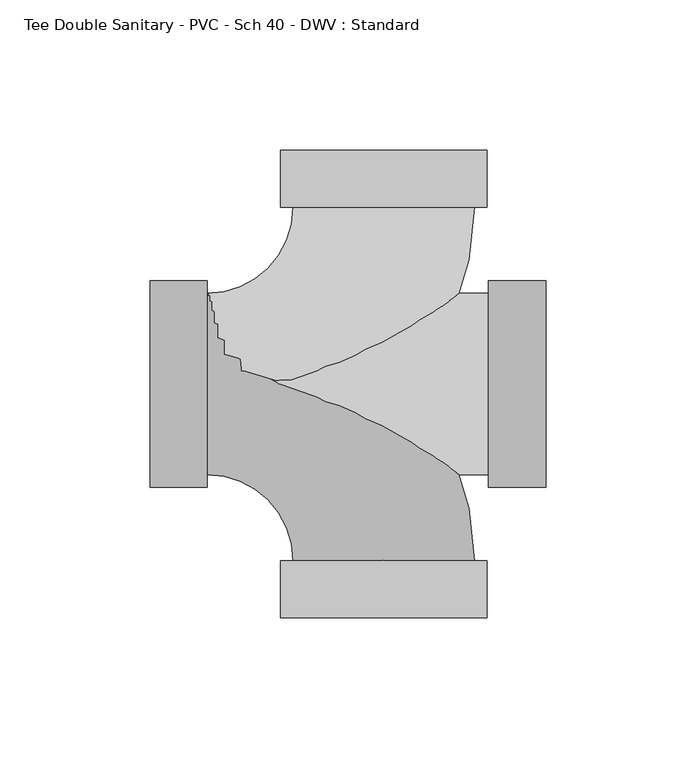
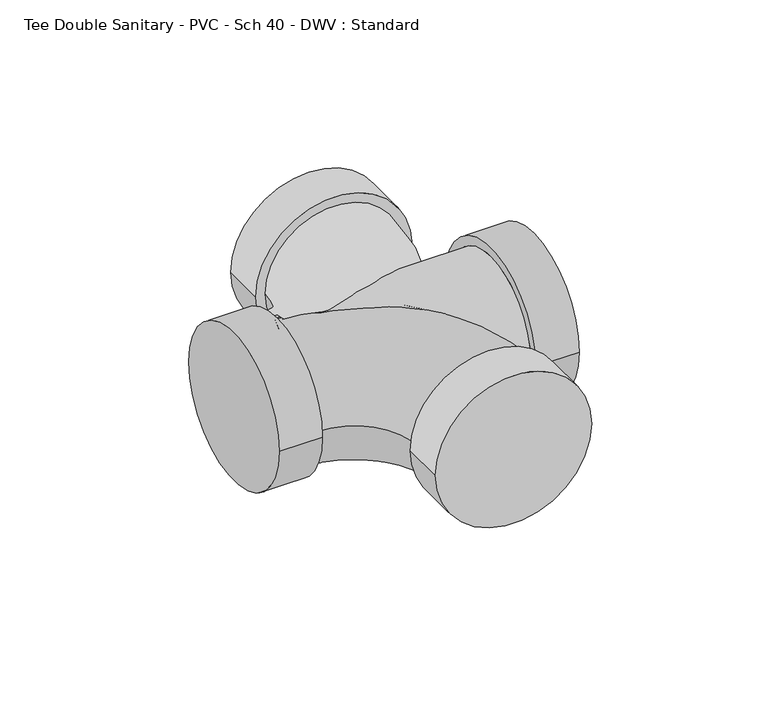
"""IFC4 building model written with IfcOpenShell, lengths in millimetres: pipe fitting geometry, Tee Double Sanitary - PVC - Sch 40 - DWV : Standard."""

from ifc_helpers import new_model, si_unit, point, frame, origin, place, context, project, spatial, circle_curve, ellipse_curve, trimmed, source, transform, mapped, element, save
from ifc_brep_helpers import plane_surface, cylinder_surface, revolved_surface, advanced_brep


def tee_double_sanitary_pvc_sch_40_dwv_standard_2fd41c53(model_context):
    return source(origin(), model_context, "Body", "AdvancedBrep", [
        advanced_brep(
        [(-58.7502, -30.1625, 0.0), (-58.7502, 30.1625, 0.0), (-30.1625, -58.7502, 0.0), (30.1625, -58.7502, 0.0), (34.3154, -77.8002, 0.0), (-34.3154, -77.8002, 0.0), (34.3154, -58.7502, 0.0), (-34.3154, -58.7502, 0.0)],
        [
            (0, 1, circle_curve(frame((-58.7502, 0.0, 0.0), z_axis=(-1.0, 0.0, 0.0), x_axis=(0.0, 1.0, 0.0)), 30.1625)),
            (1, 0, circle_curve(frame((-58.7502, 0.0, 0.0), z_axis=(-1.0, 0.0, 0.0), x_axis=(0.0, 1.0, 0.0)), 30.1625)),
            (0, 2, circle_curve(frame((-58.7502, -58.7502, 0.0), z_axis=(0.0, 0.0, -1.0), x_axis=(0.0, 1.0, 0.0)), 28.5877)),
            (2, 3, circle_curve(frame((0.0, -58.7502, 0.0), z_axis=(0.0, 1.0, 0.0), x_axis=(1.0, 0.0, 0.0)), 30.1625)),
            (3, 1, circle_curve(frame((-58.7502, -58.7502, 0.0), z_axis=(0.0, 0.0, 1.0), x_axis=(0.0, 1.0, 0.0)), 88.9127)),
            (3, 2, circle_curve(frame((0.0, -58.7502, 0.0), z_axis=(0.0, 1.0, 0.0), x_axis=(1.0, 0.0, 0.0)), 30.1625)),
            (4, 5, circle_curve(frame((0.0, -77.8002, 0.0), z_axis=(0.0, -1.0, 0.0), x_axis=(-1.0, 0.0, 0.0)), 34.3154)),
            (5, 4, circle_curve(frame((0.0, -77.8002, 0.0), z_axis=(0.0, -1.0, 0.0), x_axis=(-1.0, 0.0, 0.0)), 34.3154)),
            (6, 7, circle_curve(frame((0.0, -58.7502, 0.0), z_axis=(0.0, 1.0, 0.0), x_axis=(-1.0, 0.0, 0.0)), 34.3154)),
            (7, 6, circle_curve(frame((0.0, -58.7502, 0.0), z_axis=(0.0, 1.0, 0.0), x_axis=(-1.0, 0.0, 0.0)), 34.3154)),
            (4, 6),
            (7, 5),
        ],
        [
            plane_surface(frame((-58.7502, 0.0, 0.0), z_axis=(-1.0, 0.0, 0.0), x_axis=(0.0, 0.0, 1.0))),
            revolved_surface(trimmed(ellipse_curve(frame((-58.7502, 0.0, 0.0), z_axis=(-1.0, 0.0, 0.0), x_axis=(0.0, 1.0, 0.0)), 30.1625, 30.1625), [point((-58.7502, -30.1625, 0.0))], [point((-58.7502, 30.1625, 0.0))], True, "CARTESIAN"), (-58.7502, -58.7502, 0.0), (0.0, 0.0, -1.0)),
            revolved_surface(trimmed(ellipse_curve(frame((-58.7502, 0.0, 0.0), z_axis=(-1.0, 0.0, 0.0), x_axis=(0.0, 1.0, 0.0)), 30.1625, 30.1625), [point((-58.7502, 30.1625, 0.0))], [point((-58.7502, -30.1625, 0.0))], True, "CARTESIAN"), (-58.7502, -58.7502, 0.0), (0.0, 0.0, -1.0)),
            plane_surface(frame((0.0, -77.8002, 0.0), z_axis=(0.0, -1.0, 0.0), x_axis=(0.0, 0.0, 1.0))),
            plane_surface(frame((0.0, -58.7502, 0.0), z_axis=(0.0, 1.0, 0.0), x_axis=(0.0, 0.0, 1.0))),
            cylinder_surface(frame((0.0, -77.8002, 0.0), z_axis=(0.0, -1.0, 0.0), x_axis=(-1.0, 0.0, 0.0)), 34.3154),
        ],
        [
            (0, [[1, 2]]),
            (1, [[-1, 3, 4, 5]]),
            (2, [[-2, -5, 6, -3]]),
            (3, [[7, 8]]),
            (4, [[9, 10], [-4, -6]]),
            (5, [[-7, 11, -10, 12]]),
            (5, [[-8, -12, -9, -11]]),
        ],
    ),
        advanced_brep(
        [(-58.7502, -30.1625, 0.0), (-58.7502, 30.1625, 0.0), (30.1625, 58.7502, 0.0), (-30.1625, 58.7502, 0.0), (34.3154, 58.7502, 0.0), (-34.3154, 58.7502, 0.0), (34.3154, 77.8002, 0.0), (-34.3154, 77.8002, 0.0)],
        [
            (0, 1, circle_curve(frame((-58.7502, 0.0, 0.0), z_axis=(-1.0, 0.0, 0.0), x_axis=(0.0, 1.0, 0.0)), 30.1625)),
            (1, 0, circle_curve(frame((-58.7502, 0.0, 0.0), z_axis=(-1.0, 0.0, 0.0), x_axis=(0.0, 1.0, 0.0)), 30.1625)),
            (0, 2, circle_curve(frame((-58.7502, 58.7502, 0.0), z_axis=(0.0, 0.0, 1.0), x_axis=(0.0, -1.0, 0.0)), 88.9127)),
            (2, 3, circle_curve(frame((0.0, 58.7502, 0.0), z_axis=(0.0, -1.0, 0.0), x_axis=(-1.0, 0.0, 0.0)), 30.1625)),
            (3, 1, circle_curve(frame((-58.7502, 58.7502, 0.0), z_axis=(0.0, 0.0, -1.0), x_axis=(0.0, -1.0, 0.0)), 28.5877)),
            (3, 2, circle_curve(frame((0.0, 58.7502, 0.0), z_axis=(0.0, -1.0, 0.0), x_axis=(-1.0, 0.0, 0.0)), 30.1625)),
            (4, 5, circle_curve(frame((0.0, 58.7502, 0.0), z_axis=(0.0, -1.0, 0.0), x_axis=(-1.0, 0.0, 0.0)), 34.3154)),
            (5, 4, circle_curve(frame((0.0, 58.7502, 0.0), z_axis=(0.0, -1.0, 0.0), x_axis=(-1.0, 0.0, 0.0)), 34.3154)),
            (6, 7, circle_curve(frame((0.0, 77.8002, 0.0), z_axis=(0.0, 1.0, 0.0), x_axis=(-1.0, 0.0, 0.0)), 34.3154)),
            (7, 6, circle_curve(frame((0.0, 77.8002, 0.0), z_axis=(0.0, 1.0, 0.0), x_axis=(-1.0, 0.0, 0.0)), 34.3154)),
            (4, 6),
            (7, 5),
        ],
        [
            plane_surface(frame((-58.7502, 0.0, 0.0), z_axis=(-1.0, 0.0, 0.0), x_axis=(0.0, 0.0, 1.0))),
            revolved_surface(trimmed(ellipse_curve(frame((-58.7502, 0.0, 0.0), z_axis=(-1.0, 0.0, 0.0), x_axis=(0.0, 1.0, 0.0)), 30.1625, 30.1625), [point((-58.7502, -30.1625, 0.0))], [point((-58.7502, 30.1625, 0.0))], True, "CARTESIAN"), (-58.7502, 58.7502, 0.0), (0.0, 0.0, 1.0)),
            revolved_surface(trimmed(ellipse_curve(frame((-58.7502, 0.0, 0.0), z_axis=(-1.0, 0.0, 0.0), x_axis=(0.0, 1.0, 0.0)), 30.1625, 30.1625), [point((-58.7502, 30.1625, 0.0))], [point((-58.7502, -30.1625, 0.0))], True, "CARTESIAN"), (-58.7502, 58.7502, 0.0), (0.0, 0.0, 1.0)),
            plane_surface(frame((0.0, 58.7502, 0.0), z_axis=(0.0, -1.0, 0.0), x_axis=(0.0, 0.0, 1.0))),
            plane_surface(frame((0.0, 77.8002, 0.0), z_axis=(0.0, 1.0, 0.0), x_axis=(0.0, 0.0, 1.0))),
            cylinder_surface(frame((0.0, 58.7502, 0.0), z_axis=(0.0, -1.0, 0.0), x_axis=(-1.0, 0.0, 0.0)), 34.3154),
        ],
        [
            (0, [[1, 2]]),
            (1, [[-1, 3, 4, 5]]),
            (2, [[-2, -5, 6, -3]]),
            (3, [[7, 8], [-4, -6]]),
            (4, [[9, 10]]),
            (5, [[-7, 11, -10, 12]]),
            (5, [[-8, -12, -9, -11]]),
        ],
    ),
        advanced_brep(
        [(-77.8002, -34.3154, 0.0), (-77.8002, 34.3154, 0.0), (-58.7502, -34.3154, 0.0), (-58.7502, 34.3154, 0.0), (-58.7502, 30.1625, 0.0), (-58.7502, -30.1625, 0.0), (34.925, 30.1625, 0.0), (34.925, -30.1625, 0.0), (34.925, -34.3154, 0.0), (34.925, 34.3154, 0.0), (53.975, -34.3154, 0.0), (53.975, 34.3154, 0.0)],
        [
            (0, 1, circle_curve(frame((-77.8002, 0.0, 0.0), z_axis=(-1.0, 0.0, 0.0), x_axis=(0.0, 1.0, 0.0)), 34.3154)),
            (1, 0, circle_curve(frame((-77.8002, 0.0, 0.0), z_axis=(-1.0, 0.0, 0.0), x_axis=(0.0, 1.0, 0.0)), 34.3154)),
            (2, 3, circle_curve(frame((-58.7502, 0.0, 0.0), z_axis=(1.0, 0.0, 0.0), x_axis=(0.0, 1.0, 0.0)), 34.3154)),
            (3, 2, circle_curve(frame((-58.7502, 0.0, 0.0), z_axis=(1.0, 0.0, 0.0), x_axis=(0.0, 1.0, 0.0)), 34.3154)),
            (4, 5, circle_curve(frame((-58.7502, 0.0, 0.0), z_axis=(-1.0, 0.0, 0.0), x_axis=(0.0, 0.0, -1.0)), 30.1625)),
            (5, 4, circle_curve(frame((-58.7502, 0.0, 0.0), z_axis=(-1.0, 0.0, 0.0), x_axis=(0.0, 0.0, 1.0)), 30.1625)),
            (0, 2),
            (3, 1),
            (4, 6),
            (6, 7, circle_curve(frame((34.925, 0.0, 0.0), z_axis=(-1.0, 0.0, 0.0), x_axis=(0.0, 0.0, -1.0)), 30.1625)),
            (7, 5),
            (7, 6, circle_curve(frame((34.925, 0.0, 0.0), z_axis=(-1.0, 0.0, 0.0), x_axis=(0.0, 0.0, 1.0)), 30.1625)),
            (8, 9, circle_curve(frame((34.925, 0.0, 0.0), z_axis=(-1.0, 0.0, 0.0), x_axis=(0.0, 1.0, 0.0)), 34.3154)),
            (9, 8, circle_curve(frame((34.925, 0.0, 0.0), z_axis=(-1.0, 0.0, 0.0), x_axis=(0.0, 1.0, 0.0)), 34.3154)),
            (10, 11, circle_curve(frame((53.975, 0.0, 0.0), z_axis=(1.0, 0.0, 0.0), x_axis=(0.0, 1.0, 0.0)), 34.3154)),
            (11, 10, circle_curve(frame((53.975, 0.0, 0.0), z_axis=(1.0, 0.0, 0.0), x_axis=(0.0, 1.0, 0.0)), 34.3154)),
            (8, 10),
            (11, 9),
        ],
        [
            plane_surface(frame((-77.8002, 0.0, 0.0), z_axis=(-1.0, 0.0, 0.0), x_axis=(0.0, 0.0, 1.0))),
            plane_surface(frame((-58.7502, 0.0, 0.0), z_axis=(1.0, 0.0, 0.0), x_axis=(0.0, 0.0, 1.0))),
            cylinder_surface(frame((-77.8002, 0.0, 0.0), z_axis=(-1.0, 0.0, 0.0), x_axis=(0.0, 1.0, 0.0)), 34.3154),
            cylinder_surface(frame((-58.7502, 0.0, 0.0), z_axis=(1.0, 0.0, 0.0), x_axis=(0.0, 0.0, -1.0)), 30.1625),
            cylinder_surface(frame((-58.7502, 0.0, 0.0), z_axis=(1.0, 0.0, 0.0), x_axis=(0.0, 0.0, 1.0)), 30.1625),
            plane_surface(frame((34.925, 0.0, 0.0), z_axis=(-1.0, 0.0, 0.0), x_axis=(0.0, 0.0, 1.0))),
            plane_surface(frame((53.975, 0.0, 0.0), z_axis=(1.0, 0.0, 0.0), x_axis=(0.0, 0.0, 1.0))),
            cylinder_surface(frame((34.925, 0.0, 0.0), z_axis=(-1.0, 0.0, 0.0), x_axis=(0.0, 1.0, 0.0)), 34.3154),
        ],
        [
            (0, [[1, 2]]),
            (1, [[3, 4], [5, 6]]),
            (2, [[-1, 7, -4, 8]]),
            (2, [[-2, -8, -3, -7]]),
            (3, [[9, 10, 11, -5]]),
            (4, [[-9, -6, -11, 12]]),
            (5, [[13, 14], [-10, -12]]),
            (6, [[15, 16]]),
            (7, [[-13, 17, -16, 18]]),
            (7, [[-14, -18, -15, -17]]),
        ],
    ),
    ])


if __name__ == "__main__":
    model = new_model("IFC4")
    model_context = context("Model", 3, world=origin())
    ifc_project = project(units=[si_unit("LENGTHUNIT", "METRE", prefix="MILLI")], contexts=[model_context])
    site = spatial("IfcSite", under=ifc_project)
    building = spatial("IfcBuilding", under=site)
    placement = place(None, origin())
    tee_double_sanitary_pvc_sch_40_dwv_standard_shape = tee_double_sanitary_pvc_sch_40_dwv_standard_2fd41c53(model_context)
    element("IfcPipeFitting", 1, ObjectType="Tee Double Sanitary - PVC - Sch 40 - DWV : Standard", at=placement, inside=building, context=model_context, shape_type="MappedRepresentation", body=[
        mapped(tee_double_sanitary_pvc_sch_40_dwv_standard_shape, transform((0.0, 0.0, 0.0), x_axis=(1.0, 0.0, 0.0), y_axis=(0.0, 1.0, 0.0), z_axis=(0.0, 0.0, 1.0))),
    ])
    save(model, "model.ifc")
